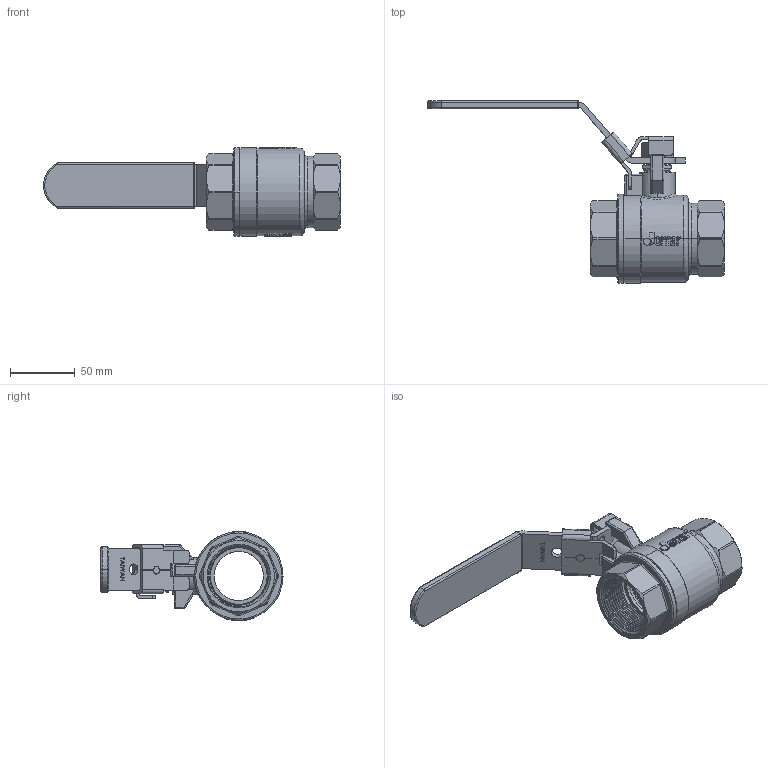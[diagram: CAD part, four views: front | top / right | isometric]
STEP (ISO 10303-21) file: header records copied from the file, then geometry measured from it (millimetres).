
FILE_DESCRIPTION (( 'STEP AP203' ), '1' );
FILE_NAME ('ABL747-Τ本玛-1.5''''JOMAR瞴恢舱-礚筣.STEP', '2025-12-15T07:50:43', ( '' ), ( '' ), 'SwSTEP 2.0', 'SolidWorks 2018', '' );
FILE_SCHEMA (( 'CONFIG_CONTROL_DESIGN' ));
Length unit declared in the file: millimetre
Products named in the file (14): DN40 & DN50-CBL747-白色膠套-T&G-200CSSG-LH; GBL218; RBL267; DN50-本玛рも-CBL238э; EBL208C; ABL747-有掛鎖-1.5''''JOMAR球閥組合-無鉛; EBL208B; NBL268; BBL707-1.5''''JOMAR球閥體-無鉛-表面無插溝; BBL707A-1.5''''JOMAR球閥八角頭-無鉛無插溝-增加V槽減肉; DN40-DN50-CBL747-HANDLE & SLEEVE 掛鎖組合; DN50-掛鎖; EBL307; TBL268A
Assembly tree (14 placements, depth 3):
  ABL747-有掛鎖-1.5''''JOMAR球閥組合-無鉛
    BBL707-1.5''''JOMAR球閥體-無鉛-表面無插溝
    RBL267
    EBL208C
    GBL218
    EBL208B
    TBL268A
    BBL707A-1.5''''JOMAR球閥八角頭-無鉛無插溝-增加V槽減肉
    NBL268
    EBL307  x2
    DN40-DN50-CBL747-HANDLE & SLEEVE 掛鎖組合
      DN50-本玛рも-CBL238э
      DN50-掛鎖
    DN40 & DN50-CBL747-白色膠套-T&G-200CSSG-LH
Bounding box: 229.35 x 140.76 x 69 mm (x, y, z)
Volume: 224467.3 mm3; surface area: 129583 mm2
Topology: 13 solids, 13 shells, 2429 faces, 6513 edges, 4290 vertices
Faces by surface type: plane 1265, bspline 664, cylinder 317, cone 137, torus 32, sphere 14
Entity records: 133056 total; most frequent: CARTESIAN_POINT 76415, ORIENTED_EDGE 12950, DIRECTION 8774, EDGE_CURVE 6475, VERTEX_POINT 4270, LINE 3986, VECTOR 3986, EDGE_LOOP 2631
